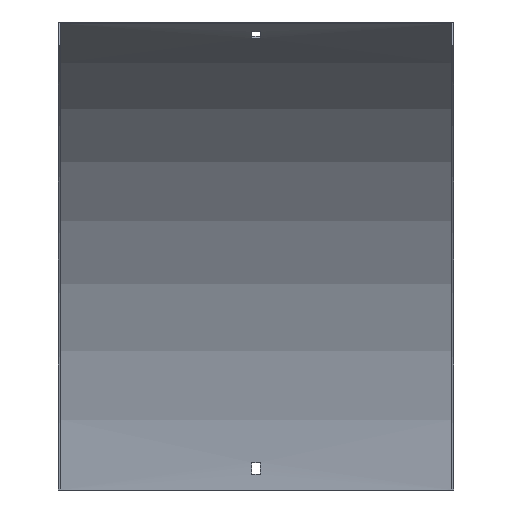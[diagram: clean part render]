
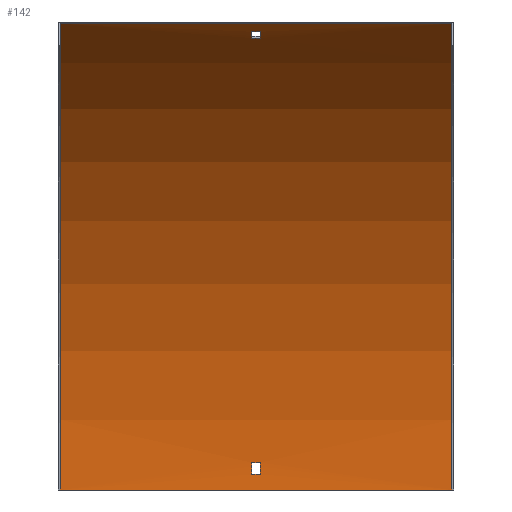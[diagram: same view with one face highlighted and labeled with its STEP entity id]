
A CAD part, front view. The second image highlights one B-rep face of the part: STEP entity #142.
In plain terms, the highlighted cylindrical face has radius 412.5 mm (diameter 825 mm), a partial arc.
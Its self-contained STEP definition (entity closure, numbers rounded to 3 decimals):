
#3 = VERTEX_POINT ( 'NONE', #58 ) ;
#12 = CARTESIAN_POINT ( 'NONE',  ( -150., -207.75, 357.235 ) ) ;
#27 = LINE ( 'NONE', #168, #412 ) ;
#31 = VERTEX_POINT ( 'NONE', #287 ) ;
#35 = LINE ( 'NONE', #230, #134 ) ;
#58 = CARTESIAN_POINT ( 'NONE',  ( -3.25, -2.035, 21. ) ) ;
#63 = FACE_OUTER_BOUND ( 'NONE', #225, .T. ) ;
#69 = DIRECTION ( 'NONE',  ( 1., 0., 0. ) ) ;
#72 = ORIENTED_EDGE ( 'NONE', *, *, #258, .F. ) ;
#74 = CARTESIAN_POINT ( 'NONE',  ( 151.5, -414., 0. ) ) ;
#75 = VERTEX_POINT ( 'NONE', #474 ) ;
#76 = DIRECTION ( 'NONE',  ( -1., 0., 0. ) ) ;
#89 = CARTESIAN_POINT ( 'NONE',  ( 151.5, -189.831, 346.272 ) ) ;
#92 = DIRECTION ( 'NONE',  ( 1., 0., 0. ) ) ;
#94 = LINE ( 'NONE', #89, #558 ) ;
#95 = VERTEX_POINT ( 'NONE', #12 ) ;
#104 = CARTESIAN_POINT ( 'NONE',  ( 3.25, -2.035, 21. ) ) ;
#113 = ORIENTED_EDGE ( 'NONE', *, *, #567, .F. ) ;
#115 = CARTESIAN_POINT ( 'NONE',  ( 151.5, -197.445, 351.084 ) ) ;
#124 = FACE_BOUND ( 'NONE', #306, .T. ) ;
#125 = VERTEX_POINT ( 'NONE', #445 ) ;
#134 = VECTOR ( 'NONE', #69, 1000. ) ;
#136 = ORIENTED_EDGE ( 'NONE', *, *, #425, .T. ) ;
#141 = VERTEX_POINT ( 'NONE', #344 ) ;
#142 = ADVANCED_FACE ( 'NONE', ( #529, #63, #124 ), #493, .F. ) ;
#144 = CARTESIAN_POINT ( 'NONE',  ( -3.25, -414., 0. ) ) ;
#146 = ORIENTED_EDGE ( 'NONE', *, *, #443, .T. ) ;
#158 = EDGE_CURVE ( 'NONE', #606, #371, #341, .T. ) ;
#168 = CARTESIAN_POINT ( 'NONE',  ( 151.5, -2.035, 21. ) ) ;
#175 = LINE ( 'NONE', #322, #439 ) ;
#177 = EDGE_CURVE ( 'NONE', #303, #31, #94, .T. ) ;
#178 = CARTESIAN_POINT ( 'NONE',  ( 150., -414., 0. ) ) ;
#189 = CARTESIAN_POINT ( 'NONE',  ( -3.25, -414., 0. ) ) ;
#194 = CIRCLE ( 'NONE', #392, 412.5 ) ;
#205 = AXIS2_PLACEMENT_3D ( 'NONE', #378, #92, #241 ) ;
#208 = VECTOR ( 'NONE', #304, 1000. ) ;
#211 = ORIENTED_EDGE ( 'NONE', *, *, #521, .F. ) ;
#216 = EDGE_LOOP ( 'NONE', ( #346, #211, #594, #113 ) ) ;
#217 = DIRECTION ( 'NONE',  ( -1., 0., 0. ) ) ;
#225 = EDGE_LOOP ( 'NONE', ( #283, #72, #146, #136 ) ) ;
#230 = CARTESIAN_POINT ( 'NONE',  ( 151.5, -1.675, 12. ) ) ;
#239 = DIRECTION ( 'NONE',  ( 0., 0., -1. ) ) ;
#241 = DIRECTION ( 'NONE',  ( 0., 0., -1. ) ) ;
#243 = EDGE_CURVE ( 'NONE', #498, #95, #450, .T. ) ;
#245 = CIRCLE ( 'NONE', #262, 412.5 ) ;
#247 = VERTEX_POINT ( 'NONE', #360 ) ;
#248 = EDGE_CURVE ( 'NONE', #31, #606, #271, .T. ) ;
#257 = DIRECTION ( 'NONE',  ( -1., 0., 0. ) ) ;
#258 = EDGE_CURVE ( 'NONE', #125, #498, #175, .T. ) ;
#262 = AXIS2_PLACEMENT_3D ( 'NONE', #178, #359, #447 ) ;
#268 = EDGE_CURVE ( 'NONE', #3, #75, #389, .T. ) ;
#271 = CIRCLE ( 'NONE', #362, 412.5 ) ;
#277 = DIRECTION ( 'NONE',  ( 1., 0., 0. ) ) ;
#283 = ORIENTED_EDGE ( 'NONE', *, *, #243, .F. ) ;
#287 = CARTESIAN_POINT ( 'NONE',  ( -3.25, -189.831, 346.272 ) ) ;
#291 = ORIENTED_EDGE ( 'NONE', *, *, #177, .T. ) ;
#293 = CIRCLE ( 'NONE', #205, 412.5 ) ;
#303 = VERTEX_POINT ( 'NONE', #578 ) ;
#304 = DIRECTION ( 'NONE',  ( 1., 0., 0. ) ) ;
#306 = EDGE_LOOP ( 'NONE', ( #291, #329, #309, #408 ) ) ;
#309 = ORIENTED_EDGE ( 'NONE', *, *, #158, .T. ) ;
#322 = CARTESIAN_POINT ( 'NONE',  ( 150., -1.5, 0. ) ) ;
#329 = ORIENTED_EDGE ( 'NONE', *, *, #248, .T. ) ;
#340 = AXIS2_PLACEMENT_3D ( 'NONE', #596, #467, #239 ) ;
#341 = LINE ( 'NONE', #115, #208 ) ;
#344 = CARTESIAN_POINT ( 'NONE',  ( 3.25, -1.675, 12. ) ) ;
#346 = ORIENTED_EDGE ( 'NONE', *, *, #268, .F. ) ;
#359 = DIRECTION ( 'NONE',  ( 1., 0., 0. ) ) ;
#360 = CARTESIAN_POINT ( 'NONE',  ( 150., -207.75, 357.235 ) ) ;
#362 = AXIS2_PLACEMENT_3D ( 'NONE', #189, #277, #418 ) ;
#365 = VERTEX_POINT ( 'NONE', #104 ) ;
#369 = DIRECTION ( 'NONE',  ( -1., 0., 0. ) ) ;
#371 = VERTEX_POINT ( 'NONE', #483 ) ;
#376 = VECTOR ( 'NONE', #76, 1000. ) ;
#378 = CARTESIAN_POINT ( 'NONE',  ( 3.25, -414., 0. ) ) ;
#389 = CIRCLE ( 'NONE', #515, 412.5 ) ;
#392 = AXIS2_PLACEMENT_3D ( 'NONE', #489, #217, #595 ) ;
#394 = DIRECTION ( 'NONE',  ( -1., 0., 0. ) ) ;
#407 = DIRECTION ( 'NONE',  ( 0., 0., 1. ) ) ;
#408 = ORIENTED_EDGE ( 'NONE', *, *, #577, .T. ) ;
#412 = VECTOR ( 'NONE', #394, 1000. ) ;
#417 = CARTESIAN_POINT ( 'NONE',  ( -3.25, -197.445, 351.084 ) ) ;
#418 = DIRECTION ( 'NONE',  ( 0., 1., 0. ) ) ;
#425 = EDGE_CURVE ( 'NONE', #247, #95, #582, .T. ) ;
#439 = VECTOR ( 'NONE', #369, 1000. ) ;
#440 = DIRECTION ( 'NONE',  ( 0., 0., 1. ) ) ;
#443 = EDGE_CURVE ( 'NONE', #125, #247, #245, .T. ) ;
#444 = CARTESIAN_POINT ( 'NONE',  ( -150., -1.5, 0. ) ) ;
#445 = CARTESIAN_POINT ( 'NONE',  ( 150., -1.5, 0. ) ) ;
#447 = DIRECTION ( 'NONE',  ( 0., 0., -1. ) ) ;
#450 = CIRCLE ( 'NONE', #340, 412.5 ) ;
#456 = CARTESIAN_POINT ( 'NONE',  ( 150., -207.75, 357.235 ) ) ;
#467 = DIRECTION ( 'NONE',  ( 1., 0., 0. ) ) ;
#474 = CARTESIAN_POINT ( 'NONE',  ( -3.25, -1.675, 12. ) ) ;
#483 = CARTESIAN_POINT ( 'NONE',  ( 3.25, -197.445, 351.084 ) ) ;
#489 = CARTESIAN_POINT ( 'NONE',  ( 3.25, -414., 0. ) ) ;
#493 = CYLINDRICAL_SURFACE ( 'NONE', #607, 412.5 ) ;
#498 = VERTEX_POINT ( 'NONE', #444 ) ;
#515 = AXIS2_PLACEMENT_3D ( 'NONE', #144, #547, #407 ) ;
#521 = EDGE_CURVE ( 'NONE', #365, #3, #27, .T. ) ;
#529 = FACE_BOUND ( 'NONE', #216, .T. ) ;
#547 = DIRECTION ( 'NONE',  ( -1., 0., 0. ) ) ;
#554 = DIRECTION ( 'NONE',  ( -1., 0., 0. ) ) ;
#558 = VECTOR ( 'NONE', #554, 1000. ) ;
#567 = EDGE_CURVE ( 'NONE', #75, #141, #35, .T. ) ;
#577 = EDGE_CURVE ( 'NONE', #371, #303, #194, .T. ) ;
#578 = CARTESIAN_POINT ( 'NONE',  ( 3.25, -189.831, 346.272 ) ) ;
#582 = LINE ( 'NONE', #456, #376 ) ;
#594 = ORIENTED_EDGE ( 'NONE', *, *, #600, .F. ) ;
#595 = DIRECTION ( 'NONE',  ( 0., 0., 1. ) ) ;
#596 = CARTESIAN_POINT ( 'NONE',  ( -150., -414., 0. ) ) ;
#600 = EDGE_CURVE ( 'NONE', #141, #365, #293, .T. ) ;
#606 = VERTEX_POINT ( 'NONE', #417 ) ;
#607 = AXIS2_PLACEMENT_3D ( 'NONE', #74, #257, #440 ) ;
